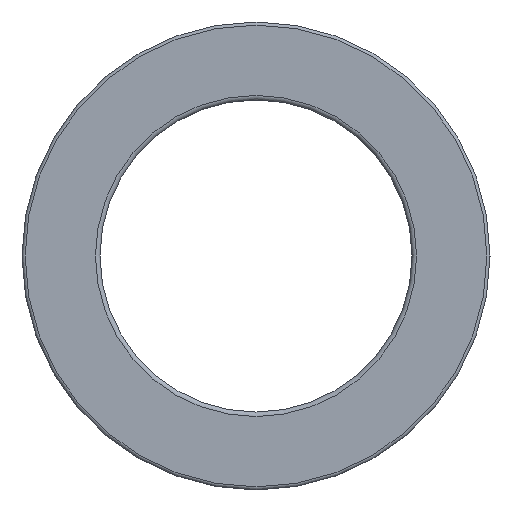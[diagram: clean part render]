
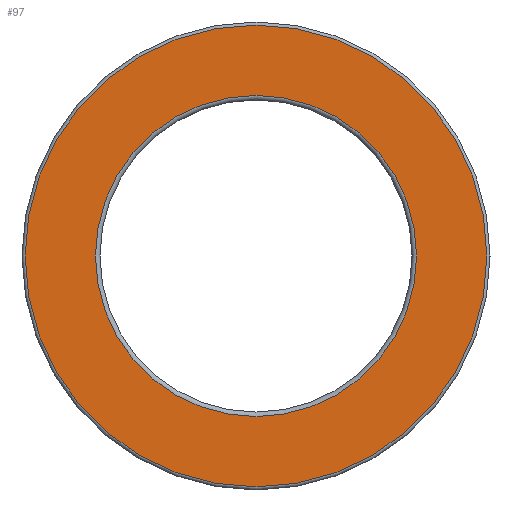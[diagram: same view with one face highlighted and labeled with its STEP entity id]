
A CAD part, left-side view. The second image highlights one B-rep face of the part: STEP entity #97.
In plain terms, the highlighted planar face has unit normal (-1, 0, 0).
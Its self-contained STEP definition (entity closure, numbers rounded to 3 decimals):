
#97=ADVANCED_FACE('',(#166,#167),#168,.F.);
#166=FACE_BOUND('',#238,.T.);
#167=FACE_OUTER_BOUND('',#239,.T.);
#168=PLANE('',#240);
#238=EDGE_LOOP('',(#354));
#239=EDGE_LOOP('',(#355));
#240=AXIS2_PLACEMENT_3D('',#356,#357,#358);
#354=ORIENTED_EDGE('',*,*,#386,.F.);
#355=ORIENTED_EDGE('',*,*,#387,.T.);
#356=CARTESIAN_POINT('',(0.0,28.119,0.0));
#357=DIRECTION('',(1.0,0.0,0.0));
#358=DIRECTION('',(0.0,0.0,-1.0));
#386=EDGE_CURVE('',#432,#432,#433,.T.);
#387=EDGE_CURVE('',#434,#434,#435,.T.);
#432=VERTEX_POINT('',#480);
#433=CIRCLE('',#481,19.558);
#434=VERTEX_POINT('',#482);
#435=CIRCLE('',#483,28.119);
#480=CARTESIAN_POINT('',(0.0,0.0,19.558));
#481=AXIS2_PLACEMENT_3D('',#550,#551,#552);
#482=CARTESIAN_POINT('',(0.0,0.0,28.119));
#483=AXIS2_PLACEMENT_3D('',#553,#554,#555);
#550=CARTESIAN_POINT('',(0.0,0.0,0.0));
#551=DIRECTION('',(-1.0,0.0,0.0));
#552=DIRECTION('',(0.0,0.0,1.0));
#553=CARTESIAN_POINT('',(0.0,0.0,0.0));
#554=DIRECTION('',(-1.0,0.0,0.0));
#555=DIRECTION('',(0.0,0.0,1.0));
